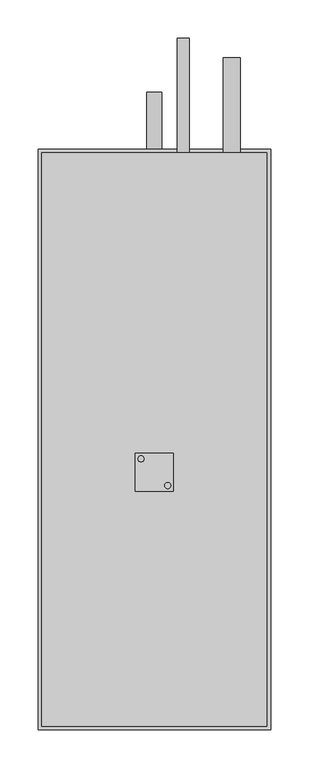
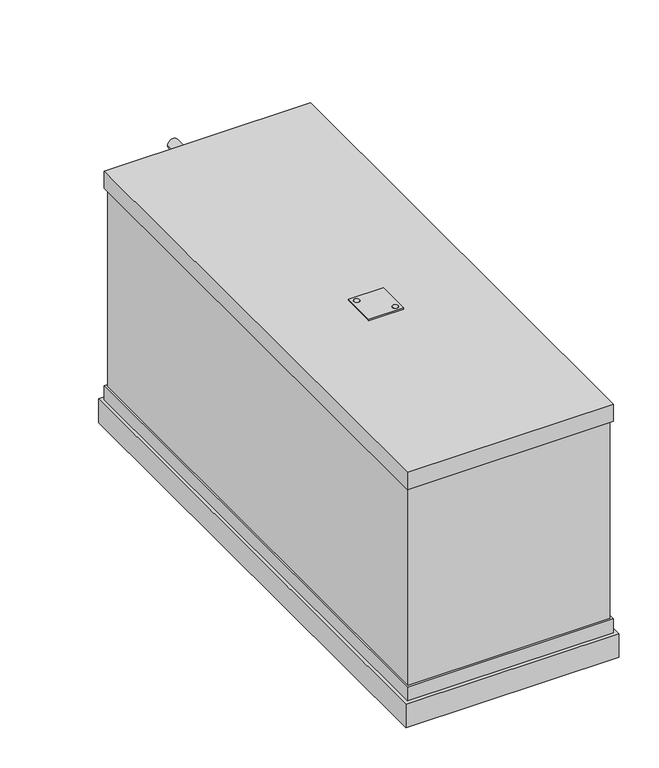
"""IFC4 building model written with IfcOpenShell, lengths in millimetres: proxy geometry, KORF_Воздухоохладитель_Фреоновый_FLO_Правый : FLO 60-30."""

from ifc_helpers import new_model, si_unit, point, frame, frame_2d, origin, place, context, project, spatial, polyline, circle_curve, trimmed, segment, composite_curve, outline, extrude, faceted_brep, source, transform, mapped, element, save


def mechanical_equipment_33aa0dfe(model_context):
    return source(origin(), model_context, "Body", "SolidModel", [
        extrude(outline(composite_curve([segment(trimmed(circle_curve(frame_2d((170.5727066, -17.5745746)), 4.0), [point((174.5727066, -17.5745746))], [point((166.5727066, -17.5745746))], False, "CARTESIAN"), True, "CONTINUOUS"), segment(trimmed(circle_curve(frame_2d((170.5727066, -17.5745746)), 4.0), [point((166.5727066, -17.5745746))], [point((174.5727066, -17.5745746))], False, "CARTESIAN"), True, "CONTINUOUS")], self_intersect=False)), frame((0.0, 0.0, 176.0), z_axis=(0.0, 0.0, 1.0), x_axis=(1.0, 0.0, 0.0)), (0.0, 0.0, 1.0), 2.0),
        extrude(outline(composite_curve([segment(trimmed(circle_curve(frame_2d((135.4272934, 17.5745746)), 4.0), [point((131.4272934, 17.5745746))], [point((139.4272934, 17.5745746))], False, "CARTESIAN"), True, "CONTINUOUS"), segment(trimmed(circle_curve(frame_2d((135.4272934, 17.5745746)), 4.0), [point((139.4272934, 17.5745746))], [point((131.4272934, 17.5745746))], False, "CARTESIAN"), True, "CONTINUOUS")], self_intersect=False)), frame((0.0, 0.0, 176.0), z_axis=(0.0, 0.0, 1.0), x_axis=(1.0, 0.0, 0.0)), (0.0, 0.0, 1.0), 2.0),
        extrude(outline(polyline([(128.0, -25.0), (128.0, 25.0), (178.0, 25.0), (178.0, -25.0), (128.0, -25.0)]), holes=[composite_curve([segment(trimmed(circle_curve(frame_2d((170.5727066, -17.5745746)), 4.0), [point((174.5727066, -17.5745746))], [point((166.5727066, -17.5745746))], True, "CARTESIAN"), True, "CONTINUOUS"), segment(trimmed(circle_curve(frame_2d((170.5727066, -17.5745746)), 4.0), [point((166.5727066, -17.5745746))], [point((174.5727066, -17.5745746))], True, "CARTESIAN"), True, "CONTINUOUS")], self_intersect=False), composite_curve([segment(trimmed(circle_curve(frame_2d((135.4272934, 17.5745746)), 4.0), [point((131.4272934, 17.5745746))], [point((139.4272934, 17.5745746))], True, "CARTESIAN"), True, "CONTINUOUS"), segment(trimmed(circle_curve(frame_2d((135.4272934, 17.5745746)), 4.0), [point((139.4272934, 17.5745746))], [point((131.4272934, 17.5745746))], True, "CARTESIAN"), True, "CONTINUOUS")], self_intersect=False)]), frame((0.0, 0.0, 176.0), z_axis=(0.0, 0.0, 1.0), x_axis=(1.0, 0.0, 0.0)), (0.0, 0.0, 1.0), 2.0),
        faceted_brep([(306.0, -339.0, -171.0), (306.0, -339.0, -207.0), (306.0, 425.0, -207.0), (306.0, 425.0, -171.0), (0.0, -339.0, -171.0), (0.0, 425.0, -171.0), (0.0, 425.0, -207.0), (0.0, -339.0, -207.0), (301.0, 420.0, -171.0), (301.0, -334.0, -171.0), (5.0, -334.0, -171.0), (5.0, 420.0, -171.0), (298.0, -331.0, 150.0), (298.0, -331.0, -150.0), (298.0, -300.0, -150.0), (298.0, 300.0, -150.0), (298.0, 417.0, -150.0), (298.0, 417.0, 150.0), (298.0, 300.0, 150.0), (298.0, -300.0, 150.0), (8.0, 417.0, 150.0), (8.0, 417.0, -150.0), (8.0, 300.0, -150.0), (8.0, -300.0, -150.0), (8.0, -331.0, -150.0), (8.0, -331.0, 150.0), (8.0, -300.0, 150.0), (8.0, 300.0, 150.0), (301.0, -334.0, 150.0), (301.0, 420.0, 150.0), (301.0, 420.0, 176.0), (301.0, -334.0, 176.0), (301.0, -334.0, -150.0), (301.0, 420.0, -150.0), (5.0, -334.0, 150.0), (5.0, -334.0, 176.0), (5.0, 420.0, 176.0), (5.0, 420.0, 150.0), (5.0, -334.0, -150.0), (5.0, 420.0, -150.0)], [[[0, 1, 2, 3]], [[4, 5, 6, 7]], [[1, 0, 4, 7]], [[2, 1, 7, 6]], [[3, 2, 6, 5]], [[0, 3, 5, 4], [8, 9, 10, 11]], [[12, 13, 14, 15, 16, 17, 18, 19]], [[20, 21, 22, 23, 24, 25, 26, 27]], [[13, 12, 25, 24]], [[17, 16, 21, 20]], [[28, 29, 30, 31]], [[32, 9, 8, 33]], [[34, 35, 36, 37]], [[38, 39, 11, 10]], [[29, 28, 34, 37], [12, 19, 18, 17, 20, 27, 26, 25]], [[30, 29, 37, 36]], [[31, 30, 36, 35]], [[28, 31, 35, 34]], [[9, 32, 38, 10]], [[33, 8, 11, 39]], [[32, 33, 39, 38], [14, 13, 24, 23, 22, 21, 16, 15]]]),
        extrude(outline(composite_curve([segment(trimmed(circle_curve(frame_2d((-99.0, 255.0)), 11.11), [point((-99.0, 243.89))], [point((-99.0, 266.11))], False, "CARTESIAN"), True, "CONTINUOUS"), segment(trimmed(circle_curve(frame_2d((-99.0, 255.0)), 11.11), [point((-99.0, 266.11))], [point((-99.0, 243.89))], False, "CARTESIAN"), True, "CONTINUOUS")], self_intersect=False)), frame((0.0, 417.0, 0.0), z_axis=(0.0, 1.0, 0.0), x_axis=(0.0, 0.0, 1.0)), (0.0, 0.0, 1.0), 128.0),
        extrude(outline(composite_curve([segment(trimmed(circle_curve(frame_2d((61.0, 191.0)), 7.94), [point((61.0, 183.06))], [point((61.0, 198.94))], False, "CARTESIAN"), True, "CONTINUOUS"), segment(trimmed(circle_curve(frame_2d((61.0, 191.0)), 7.94), [point((61.0, 198.94))], [point((61.0, 183.06))], False, "CARTESIAN"), True, "CONTINUOUS")], self_intersect=False)), frame((0.0, 417.0, 0.0), z_axis=(0.0, 1.0, 0.0), x_axis=(0.0, 0.0, 1.0)), (0.0, 0.0, 1.0), 154.0),
        extrude(outline(composite_curve([segment(trimmed(circle_curve(frame_2d((-189.0, 153.0)), 10.0), [point((-189.0, 143.0))], [point((-189.0, 163.0))], False, "CARTESIAN"), True, "CONTINUOUS"), segment(trimmed(circle_curve(frame_2d((-189.0, 153.0)), 10.0), [point((-189.0, 163.0))], [point((-189.0, 143.0))], False, "CARTESIAN"), True, "CONTINUOUS")], self_intersect=False)), frame((0.0, 425.0, 0.0), z_axis=(0.0, 1.0, 0.0), x_axis=(0.0, 0.0, 1.0)), (0.0, 0.0, 1.0), 75.0),
    ])


if __name__ == "__main__":
    model = new_model("IFC4")
    model_context = context("Model", 3, world=origin())
    ifc_project = project(units=[si_unit("LENGTHUNIT", "METRE", prefix="MILLI")], contexts=[model_context])
    site = spatial("IfcSite", under=ifc_project)
    building = spatial("IfcBuilding", under=site)
    placement = place(None, origin())
    mechanical_equipment_shape = mechanical_equipment_33aa0dfe(model_context)
    element("IfcBuildingElementProxy", 1, Name="KORF_Воздухоохладитель_Фреоновый_FLO_Правый : FLO 60-30", ObjectType="KORF_Воздухоохладитель_Фреоновый_FLO_Правый : FLO 60-30", at=placement, inside=building, context=model_context, shape_type="MappedRepresentation", body=[
        mapped(mechanical_equipment_shape, transform((0.0, 0.0, 0.0), x_axis=(1.0, 0.0, 0.0), y_axis=(0.0, 1.0, 0.0), z_axis=(0.0, 0.0, 1.0))),
    ])
    save(model, "model.ifc")
